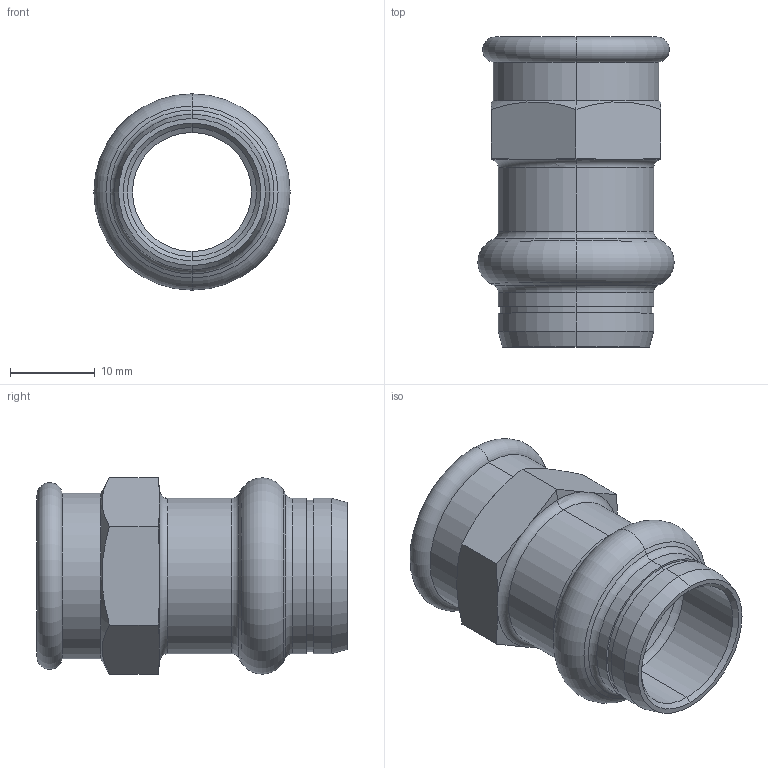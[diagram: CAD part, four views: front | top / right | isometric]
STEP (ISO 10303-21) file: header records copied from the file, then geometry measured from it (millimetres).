
FILE_DESCRIPTION (( 'STEP AP203' ), '1' );
FILE_NAME ('SP4270G Ø15 3-8.STEP', '2017-04-26T08:00:24', ( '' ), ( '' ), 'SwSTEP 2.0', 'SolidWorks 2016', '' );
FILE_SCHEMA (( 'CONFIG_CONTROL_DESIGN' ));
Length unit declared in the file: millimetre
Products named in the file (1): SP4270G Ø15 3-8
Bounding box: 23.1 x 36.5 x 23.1 mm (x, y, z)
Volume: 4351.3 mm3; surface area: 4704.4 mm2
Topology: 1 solids, 1 shells, 65 faces, 141 edges, 82 vertices
Faces by surface type: cone 23, cylinder 18, torus 12, plane 12
Entity records: 1928 total; most frequent: CARTESIAN_POINT 421, DIRECTION 325, ORIENTED_EDGE 282, AXIS2_PLACEMENT_3D 142, EDGE_CURVE 141, VERTEX_POINT 82, CIRCLE 76, EDGE_LOOP 71
